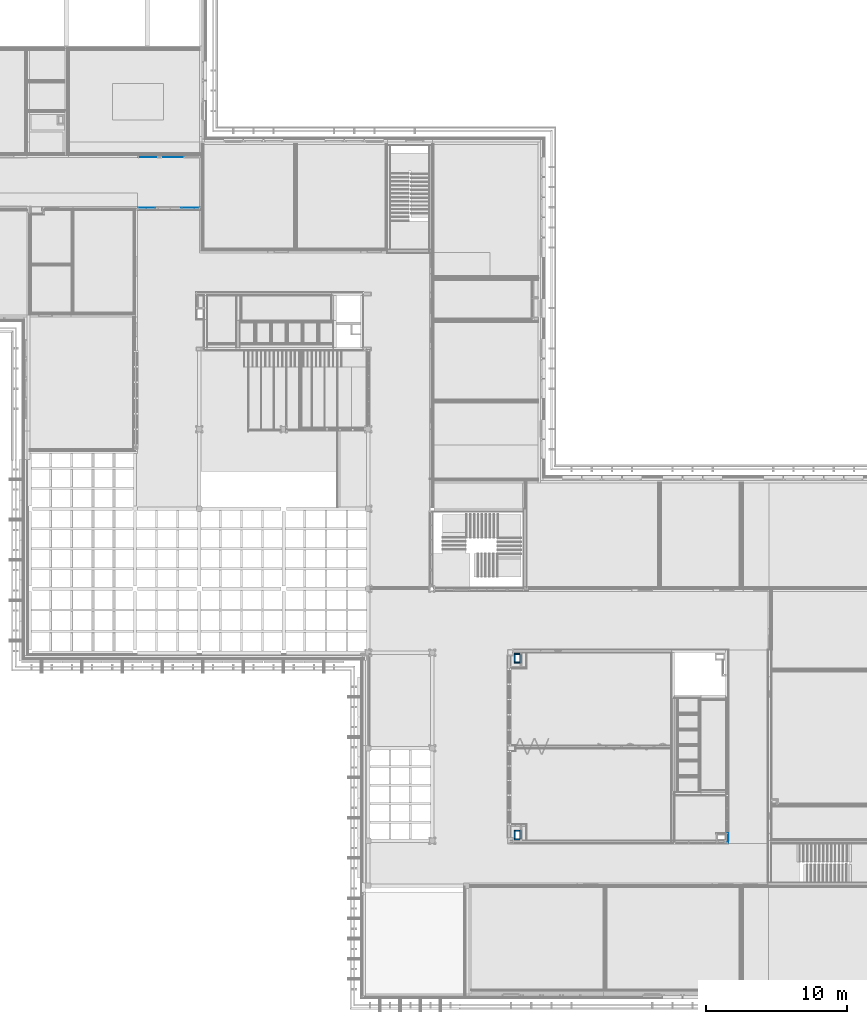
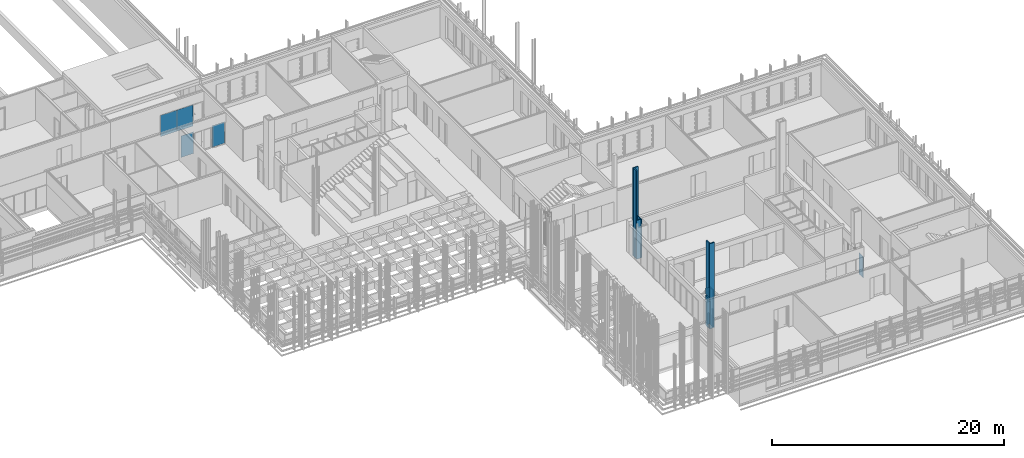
# One storey, part 54 of 139: 8 walls, 5 plates, 3 elements without a shape of their own.
"""IFC2X3 building model written with IfcOpenShell, lengths in millimetres."""

from ifc_helpers import new_model, entity, si_unit, converted_unit, derived_unit, money_unit, direction, frame, origin_with_axes, place, context, subcontext, project, spatial, faceted_brep, material, type_object, element, aggregate, save


model = new_model("IFC2X3")

# Units and contexts
model_context = context("Model", 3, precision=0.01, world=origin_with_axes(), true_north=direction((0.0, 1.0)))
body_context = subcontext(model_context, "Body", "Model", "MODEL_VIEW")
ifc_project = project(units=[si_unit("LENGTHUNIT", "METRE", prefix="MILLI"), si_unit("AREAUNIT", "SQUARE_METRE"), si_unit("VOLUMEUNIT", "CUBIC_METRE"), converted_unit("PLANEANGLEUNIT", "DEGREE", entity("IfcPlaneAngleMeasure", 0.0174532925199), si_unit("PLANEANGLEUNIT", "RADIAN"), dimensions=[0, 0, 0, 0, 0, 0, 0]), money_unit("EUR"), converted_unit("TIMEUNIT", "Year", entity("IfcTimeMeasure", 31556926.0), si_unit("TIMEUNIT", "SECOND"), dimensions=[0, 0, 1, 0, 0, 0, 0]), si_unit("MASSUNIT", "GRAM", prefix="KILO"), si_unit("THERMODYNAMICTEMPERATUREUNIT", "DEGREE_CELSIUS"), si_unit("LUMINOUSINTENSITYUNIT", "LUMEN"), si_unit("ENERGYUNIT", "JOULE", prefix="MEGA"), derived_unit("THERMALCONDUCTANCEUNIT", [(si_unit("POWERUNIT", "WATT"), 1), (si_unit("LENGTHUNIT", "METRE"), -1), (si_unit("THERMODYNAMICTEMPERATUREUNIT", "KELVIN"), -1)]), derived_unit("SPECIFICHEATCAPACITYUNIT", [(si_unit("ENERGYUNIT", "JOULE"), 1), (si_unit("MASSUNIT", "GRAM", prefix="KILO"), -1), (si_unit("THERMODYNAMICTEMPERATUREUNIT", "KELVIN"), -1)]), derived_unit("MASSDENSITYUNIT", [(si_unit("MASSUNIT", "GRAM", prefix="KILO"), 1), (si_unit("VOLUMEUNIT", "CUBIC_METRE"), -1)])], contexts=[model_context])

# Site, building, storey
site_placement = place(None, origin_with_axes())
site = spatial("IfcSite", under=ifc_project, at=site_placement, Name="Kolde pst 67a", CompositionType="ELEMENT")
building_placement = place(site_placement, origin_with_axes())
building = spatial("IfcBuilding", under=site, at=building_placement, Name="Riigigümnaasium", CompositionType="ELEMENT")
storey_placement = place(building_placement, frame((0.0, 0.0, 4600.0), z_axis=(0.0, 0.0, 1.0), x_axis=(1.0, 0.0, 0.0)))
storey = spatial("IfcBuildingStorey", under=building, at=storey_placement, Name="2. korrus", CompositionType="ELEMENT", Elevation=4600.0)

# Curtain wall, plate
curtain_wall_type = type_object("IfcCurtainWallType", Name="Curtain Wall Type", PredefinedType="NOTDEFINED")
curtain_wall_1_placement = place(storey_placement, frame((35564.9561331, 55789.9111982, 0.0), z_axis=(0.0, 0.0, 1.0), x_axis=(1.0, 0.0, 0.0)))
curtain_wall_1 = element("IfcCurtainWall", 1, at=curtain_wall_1_placement, inside=storey, type_object=curtain_wall_type, Name="KLAASSEIN")
ifc_material_1 = material(Name="_GENEERILINE MATERJAL KLAAS")
plate_type_1 = type_object("IfcPlateType", Name="Distinct Panel 20 x 2300 x 20", PredefinedType="NOTDEFINED")
plate_1_placement = place(curtain_wall_1_placement, frame((0.0, 0.0, 1150.0), z_axis=(0.0, 0.0, 1.0), x_axis=(-1.0, 0.0, 0.0)))
plate_1 = element("IfcPlate", 2, at=plate_1_placement, type_object=plate_type_1, material=ifc_material_1, Name="RF PANEEL ERI-042", context=body_context, shape_type="Brep", body=[
    faceted_brep([(554.961215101, 10.0, 1150.0), (554.961215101, -10.0, 1150.0), (574.961222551, -10.0, 1150.0), (574.961222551, 10.0, 1150.0), (554.961215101, 10.0, 1129.99999255), (554.961215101, -10.0, 1129.99999255), (505.040931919, -10.0, 1129.99999255), (-344.959093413, -10.0, 1129.99999255), (-695.043071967, -10.0, 1129.99999255), (-695.043071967, -10.0, -1129.99999255), (-344.959093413, -10.0, -1129.99999255), (505.040931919, -10.0, -1129.99999255), (554.961215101, -10.0, -1129.99999255), (554.961215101, -10.0, -1150.0), (574.961222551, -10.0, -1150.0), (574.961222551, 10.0, -1150.0), (554.961215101, 10.0, -1150.0), (554.961215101, 10.0, -1129.99999255), (505.040931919, 10.0, -1129.99999255), (-344.959093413, 10.0, -1129.99999255), (-695.043071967, 10.0, -1129.99999255), (-695.043071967, 10.0, 1129.99999255), (-344.959093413, 10.0, 1129.99999255), (505.040931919, 10.0, 1129.99999255)], [[[0, 1, 2, 3]], [[4, 5, 1, 0]], [[1, 5, 6, 7, 8, 9, 10, 11, 12, 13, 14, 2]], [[3, 2, 14, 15]], [[0, 3, 15, 16, 17, 18, 19, 20, 21, 22, 23, 4]], [[23, 6, 5, 4]], [[22, 7, 6, 23]], [[21, 8, 7, 22]], [[20, 9, 8, 21]], [[19, 10, 9, 20]], [[18, 11, 10, 19]], [[17, 12, 11, 18]], [[16, 13, 12, 17]], [[15, 14, 13, 16]]]),
])

curtain_wall_2_placement = place(storey_placement, frame((71469.9681221, 10694.9619432, -0.000132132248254), z_axis=(0.0, 0.0, 1.0), x_axis=(1.0, 0.0, 0.0)))
curtain_wall_2 = element("IfcCurtainWall", 3, at=curtain_wall_2_placement, inside=storey, type_object=curtain_wall_type, Name="KLAASSEIN")
plate_type_2 = type_object("IfcPlateType", Name="Distinct Panel 20 x 20 x 20", PredefinedType="NOTDEFINED")
plate_2_placement = place(curtain_wall_2_placement, frame((2279.75189028, 252.781235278, 1150.00007262), z_axis=(0.0, 0.0, 1.0), x_axis=(0.0, -1.0, 0.0)))
plate_2 = element("IfcPlate", 4, at=plate_2_placement, type_object=plate_type_2, material=ifc_material_1, Name="RF PANEEL ERI-023", context=body_context, shape_type="Brep", body=[
    faceted_brep([(-490.562461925, -10.0, 1150.00007262), (-470.562453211, -10.0, 1150.00007262), (-470.562453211, 10.0, 1150.00007262), (-490.562461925, 10.0, 1150.00007262), (-490.562461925, -10.0, -1150.00007262), (-470.562453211, -10.0, -1150.00007262), (-470.562453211, -10.0, -1130.00006391), (202.781226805, -10.0, -1130.00006391), (202.781226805, -10.0, 1130.00006391), (-470.562453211, -10.0, 1130.00006391), (-470.562453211, 10.0, 1130.00006391), (202.781226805, 10.0, 1130.00006391), (202.781226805, 10.0, -1130.00006391), (-470.562453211, 10.0, -1130.00006391), (-470.562453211, 10.0, -1150.00007262), (-490.562461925, 10.0, -1150.00007262)], [[[0, 1, 2, 3]], [[0, 4, 5, 6, 7, 8, 9, 1]], [[1, 9, 10, 2]], [[3, 2, 10, 11, 12, 13, 14, 15]], [[4, 0, 3, 15]], [[5, 4, 15, 14]], [[6, 5, 14, 13]], [[7, 6, 13, 12]], [[8, 7, 12, 11]], [[9, 8, 11, 10]]]),
])
aggregate(curtain_wall_2, [plate_2])

# Plate
plate_3_placement = place(curtain_wall_1_placement, frame((-3058.3205154, 0.0, 1150.0), z_axis=(0.0, 0.0, 1.0), x_axis=(-1.0, 0.0, 0.0)))
plate_3 = element("IfcPlate", 5, at=plate_3_placement, type_object=plate_type_2, material=ifc_material_1, Name="RF PANEEL ERI-040", context=body_context, shape_type="Brep", body=[
    faceted_brep([(-633.359338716, 10.0, 1150.0), (-633.359338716, -10.0, 1150.0), (-613.359331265, -10.0, 1150.0), (-613.359331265, 10.0, 1150.0), (-633.359338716, 10.0, -1150.0), (-633.359338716, -10.0, -1150.0), (-613.359331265, -10.0, -1150.0), (-613.359331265, -10.0, -1129.99999255), (-3.27960848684, -10.0, -1129.99999255), (596.638908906, -10.0, -1129.99999255), (596.638908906, -10.0, 1129.99999255), (-3.27960848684, -10.0, 1129.99999255), (-613.359331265, -10.0, 1129.99999255), (-613.359331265, 10.0, 1129.99999255), (-3.27960848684, 10.0, 1129.99999255), (596.638908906, 10.0, 1129.99999255), (596.638908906, 10.0, -1129.99999255), (-3.27960848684, 10.0, -1129.99999255), (-613.359331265, 10.0, -1129.99999255), (-613.359331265, 10.0, -1150.0)], [[[0, 1, 2, 3]], [[4, 5, 1, 0]], [[1, 5, 6, 7, 8, 9, 10, 11, 12, 2]], [[3, 2, 12, 13]], [[0, 3, 13, 14, 15, 16, 17, 18, 19, 4]], [[19, 6, 5, 4]], [[18, 7, 6, 19]], [[17, 8, 7, 18]], [[16, 9, 8, 17]], [[15, 10, 9, 16]], [[14, 11, 10, 15]], [[13, 12, 11, 14]]]),
])

aggregate(curtain_wall_1, [plate_1, plate_3])

# Curtain wall, plates
curtain_wall_3_placement = place(storey_placement, frame((32923.3668784, 59369.9979478, 0.0), z_axis=(0.0, 0.0, 1.0), x_axis=(1.0, 0.0, 0.0)))
curtain_wall_3 = element("IfcCurtainWall", 6, at=curtain_wall_3_placement, inside=storey, type_object=curtain_wall_type, Name="KLAASSEIN")
plate_type_3 = type_object("IfcPlateType", Name="Distinct Panel 1317 x 2240 x 20", PredefinedType="NOTDEFINED")
plate_4_placement = place(curtain_wall_3_placement, frame((0.0, 0.0, 1150.0), z_axis=(0.0, 0.0, 1.0), x_axis=(-1.0, 0.0, 0.0)))
plate_4 = element("IfcPlate", 7, at=plate_4_placement, type_object=plate_type_3, material=ifc_material_1, Name="RF PANEEL ERI-025", context=body_context, shape_type="Brep", body=[
    faceted_brep([(-636.632355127, -10.0, 1120.00000596), (-352.588962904, -10.0, 1120.00000596), (-352.588962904, 10.0, 1120.00000596), (-636.632355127, 10.0, 1120.00000596), (-636.632355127, -10.0, -1120.00000596), (-352.588962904, -10.0, -1120.00000596), (964.221322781, -10.0, -1120.00000596), (964.221322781, -10.0, 1120.00000596), (964.221322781, 10.0, 1120.00000596), (964.221322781, 10.0, -1120.00000596), (-352.588962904, 10.0, -1120.00000596), (-636.632355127, 10.0, -1120.00000596)], [[[0, 1, 2, 3]], [[0, 4, 5, 6, 7, 1]], [[1, 7, 8, 2]], [[3, 2, 8, 9, 10, 11]], [[4, 0, 3, 11]], [[5, 4, 11, 10]], [[6, 5, 10, 9]], [[7, 6, 9, 8]]]),
])
plate_type_4 = type_object("IfcPlateType", Name="Distinct Panel 1136 x 2240 x 20", PredefinedType="NOTDEFINED")
plate_5_placement = place(curtain_wall_3_placement, frame((1563.61788658, 0.0, 1150.0), z_axis=(0.0, 0.0, 1.0), x_axis=(-1.0, 0.0, 0.0)))
plate_5 = element("IfcPlate", 8, at=plate_5_placement, type_object=plate_type_4, material=ifc_material_1, Name="RF PANEEL ERI-025", context=body_context, shape_type="Brep", body=[
    faceted_brep([(-698.014452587, -10.0, 1120.00000596), (-218.971064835, -10.0, 1120.00000596), (-218.971064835, 10.0, 1120.00000596), (-698.014452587, 10.0, 1120.00000596), (-698.014452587, -10.0, -1120.00000596), (-218.971064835, -10.0, -1120.00000596), (916.985523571, -10.0, -1120.00000596), (916.985523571, -10.0, 1120.00000596), (916.985523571, 10.0, 1120.00000596), (916.985523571, 10.0, -1120.00000596), (-218.971064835, 10.0, -1120.00000596), (-698.014452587, 10.0, -1120.00000596)], [[[0, 1, 2, 3]], [[0, 4, 5, 6, 7, 1]], [[1, 7, 8, 2]], [[3, 2, 8, 9, 10, 11]], [[4, 0, 3, 11]], [[5, 4, 11, 10]], [[6, 5, 10, 9]], [[7, 6, 9, 8]]]),
])
aggregate(curtain_wall_3, [plate_4, plate_5])

# Walls
ifc_material_2 = material(Name="_KANDETARIND - kergplokk Fibo 100mm")
wall_type = type_object("IfcWallType", Name="SS-KP-10/3_viimistluseta 100", PredefinedType="NOTDEFINED")
wall_1_placement = place(storey_placement, frame((59079.966176, 10949.9619452, -150.0), z_axis=(0.0, 0.0, 1.0), x_axis=(-1.0, -3.7727346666e-09, 0.0)))
element("IfcWall", 9, at=wall_1_placement, inside=storey, type_object=wall_type, material=ifc_material_2, Name="SE šaht", context=body_context, shape_type="Brep", body=[
    faceted_brep([(3.77276876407e-07, 0.0, 3475.0), (3.77276876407e-07, 0.0, 0.0), (0.0, -100.0, 0.0), (0.0, -100.0, 3475.0), (2.26363283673e-06, -100.0, 8955.0), (2.64090260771e-06, 0.0, 8955.0), (500.000752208, -1.88637017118e-06, 8955.0), (500.000752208, -1.88637017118e-06, 0.0), (500.000752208, -100.000001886, 0.0), (500.000752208, -100.000001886, 8955.0)], [[[0, 1, 2, 3, 4, 5]], [[1, 0, 5, 6, 7]], [[2, 1, 7, 8]], [[3, 2, 8, 9, 4]], [[5, 4, 9, 6]], [[6, 9, 8, 7]]]),
])
wall_2_placement = place(storey_placement, frame((58579.9654238, 10949.9619433, -150.0), z_axis=(0.0, 0.0, 1.0), x_axis=(-3.77273146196e-09, 1.0, 0.0)))
element("IfcWall", 10, at=wall_2_placement, inside=storey, type_object=wall_type, material=ifc_material_2, Name="SE šaht", context=body_context, shape_type="Brep", body=[
    faceted_brep([(703.588091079, -2.65444555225e-06, 3125.0), (703.588090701, -99.9834366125, 3125.0), (703.588090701, -99.9834366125, 3300.0), (703.588091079, -2.65444555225e-06, 3300.0), (703.588091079, -2.65444555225e-06, 3900.0), (703.588090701, -100.000002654, 3900.0), (703.588090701, -100.000002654, 50.0), (703.588091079, -2.65444555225e-06, 50.0), (100.0, -3.77269770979e-07, 3125.0), (100.0, -99.9834343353, 3125.0), (100.0, -99.9834343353, 3300.0), (100.0, -3.77269770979e-07, 3300.0), (100.0, -3.77269770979e-07, 8955.0), (603.588091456, -2.27717578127e-06, 8955.0), (603.588091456, -2.27717578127e-06, 3900.0), (603.588091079, -100.000002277, 3900.0), (603.588091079, -100.000002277, 8955.0), (100.0, -100.000000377, 8955.0), (100.0, -100.000000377, 0.0), (603.588091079, -100.000002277, 0.0), (603.588091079, -100.000002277, 50.0), (603.588091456, -2.27717578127e-06, 50.0), (603.588091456, -2.27717578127e-06, 0.0), (100.0, -3.77269770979e-07, 0.0)], [[[0, 1, 2, 3, 4, 5, 6, 7]], [[1, 0, 8, 9]], [[2, 1, 9, 10]], [[3, 2, 10, 11]], [[3, 11, 12, 13, 14, 4]], [[14, 15, 5, 4]], [[5, 15, 16, 17, 18, 19, 20, 6]], [[21, 7, 6, 20]], [[8, 0, 7, 21, 22, 23]], [[9, 8, 23, 18, 17, 12, 11, 10]], [[17, 16, 13, 12]], [[14, 13, 16, 15]], [[23, 22, 19, 18]], [[21, 20, 19, 22]]]),
])
wall_3_placement = place(storey_placement, frame((58979.966176, 10949.9619449, -150.0), z_axis=(0.0, 0.0, 1.0), x_axis=(0.0, 1.0, 0.0)))
element("IfcWall", 11, at=wall_3_placement, inside=storey, type_object=wall_type, material=ifc_material_2, Name="SE šaht", context=body_context, shape_type="Brep", body=[
    faceted_brep([(603.588089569, -100.0, 0.0), (603.588089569, -100.0, 50.0), (703.588089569, -100.0, 50.0), (703.588089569, -100.0, 3900.0), (100.000000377, -100.0, 3900.0), (100.000000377, -100.0, 0.0), (603.588089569, 0.0, 0.0), (603.588089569, 0.0, 50.0), (703.588089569, 0.0, 50.0), (703.588089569, 0.0, 3900.0), (100.0, 0.0, 3900.0), (100.0, 0.0, 0.0)], [[[0, 1, 2, 3, 4, 5]], [[1, 0, 6, 7]], [[8, 2, 1, 7]], [[2, 8, 9, 3]], [[3, 9, 10, 4]], [[4, 10, 11, 5]], [[6, 0, 5, 11]], [[7, 6, 11, 10, 9, 8]]]),
])
wall_4_placement = place(storey_placement, frame((58979.966176, 11553.5500344, -100.0), z_axis=(0.0, 0.0, 1.0), x_axis=(-1.0, 0.0, 0.0)))
element("IfcWall", 12, at=wall_4_placement, inside=storey, type_object=wall_type, material=ifc_material_2, Name="SE šaht", context=body_context, shape_type="Brep", body=[
    faceted_brep([(300.000754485, 0.0, 3850.0), (0.0, 0.0, 3850.0), (0.0, -100.0, 3850.0), (300.000754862, -100.0, 3850.0), (300.000754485, 0.0, 0.0), (0.0, 0.0, 0.0), (0.0, -100.0, 0.0), (300.000754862, -100.0, 0.0)], [[[0, 1, 2, 3]], [[4, 5, 1, 0]], [[2, 1, 5, 6]], [[3, 2, 6, 7]], [[3, 7, 4, 0]], [[7, 6, 5, 4]]]),
])
wall_5_placement = place(storey_placement, frame((58579.9488767, 24189.9999727, -425.0), z_axis=(0.0, 0.0, 1.0), x_axis=(1.0, 3.77272043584e-09, 0.0)))
element("IfcWall", 13, at=wall_5_placement, inside=storey, type_object=wall_type, material=ifc_material_2, Name="SE šaht", context=body_context, shape_type="Brep", body=[
    faceted_brep([(500.000754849, -100.000001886, 4075.0), (500.000754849, -100.000001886, 0.0), (500.000755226, -1.88636306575e-06, 0.0), (500.000755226, -1.88636306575e-06, 4075.0), (500.000752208, -1.88636306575e-06, 9230.0), (500.00075183, -100.000001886, 9230.0), (-3.77276876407e-07, -100.0, 9230.0), (-3.77276876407e-07, -100.0, 0.0), (0.0, 0.0, 0.0), (0.0, 0.0, 9230.0)], [[[0, 1, 2, 3, 4, 5]], [[1, 0, 5, 6, 7]], [[2, 1, 7, 8]], [[3, 2, 8, 9, 4]], [[5, 4, 9, 6]], [[6, 9, 8, 7]]]),
])
wall_6_placement = place(storey_placement, frame((58979.9496312, 24189.9999742, -425.0), z_axis=(0.0, 0.0, 1.0), x_axis=(0.0, -1.0, 0.0)))
element("IfcWall", 14, at=wall_6_placement, inside=storey, type_object=wall_type, material=ifc_material_2, Name="SE šaht", context=body_context, shape_type="Brep", body=[
    faceted_brep([(700.000752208, 0.0, 0.0), (100.0, 0.0, 0.0), (99.9999996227, 100.0, 0.0), (700.000752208, 100.0, 0.0), (700.000752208, 0.0, 4075.0), (100.0, 0.0, 4075.0), (99.9999996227, 100.0, 4075.0), (700.000752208, 100.0, 4075.0)], [[[0, 1, 2, 3]], [[4, 5, 1, 0]], [[2, 1, 5, 6]], [[3, 2, 6, 7]], [[3, 7, 4, 0]], [[7, 6, 5, 4]]]),
])
wall_7_placement = place(storey_placement, frame((58979.9496312, 23589.999222, -425.0), z_axis=(0.0, 0.0, 1.0), x_axis=(-1.0, 0.0, 0.0)))
element("IfcWall", 15, at=wall_7_placement, inside=storey, type_object=wall_type, material=ifc_material_2, Name="SE šaht", context=body_context, shape_type="Brep", body=[
    faceted_brep([(400.000754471, 0.0, 0.0), (0.0, 0.0, 0.0), (0.0, 100.0, 0.0), (400.000754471, 100.0, 0.0), (400.000754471, 0.0, 4075.0), (0.0, 0.0, 4075.0), (0.0, 100.0, 4075.0), (400.000754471, 100.0, 4075.0)], [[[0, 1, 2, 3]], [[4, 5, 1, 0]], [[2, 1, 5, 6]], [[3, 2, 6, 7]], [[3, 7, 4, 0]], [[7, 6, 5, 4]]]),
])
wall_8_placement = place(storey_placement, frame((58579.9488767, 23589.999222, -425.0), z_axis=(0.0, 0.0, 1.0), x_axis=(0.0, 1.0, 0.0)))
element("IfcWall", 16, at=wall_8_placement, inside=storey, type_object=wall_type, material=ifc_material_2, Name="SE šaht", context=body_context, shape_type="Brep", body=[
    faceted_brep([(0.0, 0.0, 4075.0), (0.0, 0.0, 0.0), (0.0, -100.0, 0.0), (0.0, -100.0, 4075.0), (0.0, -100.0, 9230.0), (0.0, 0.0, 9230.0), (500.000750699, 0.0, 9230.0), (500.000750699, 0.0, 0.0), (500.000751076, -100.0, 0.0), (500.000751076, -100.0, 9230.0)], [[[0, 1, 2, 3, 4, 5]], [[1, 0, 5, 6, 7]], [[2, 1, 7, 8]], [[3, 2, 8, 9, 4]], [[6, 5, 4, 9]], [[6, 9, 8, 7]]]),
])

save(model, "model.ifc")
